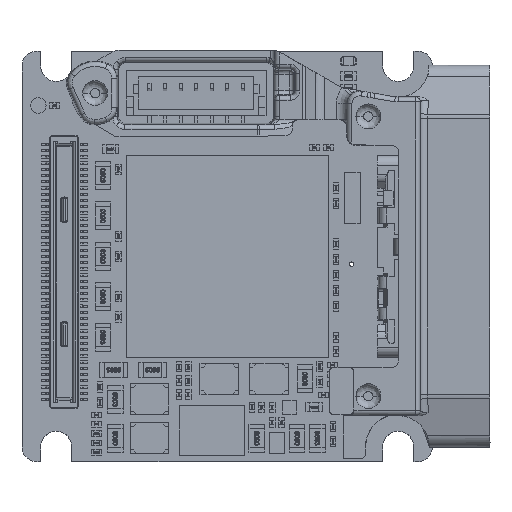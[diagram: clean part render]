
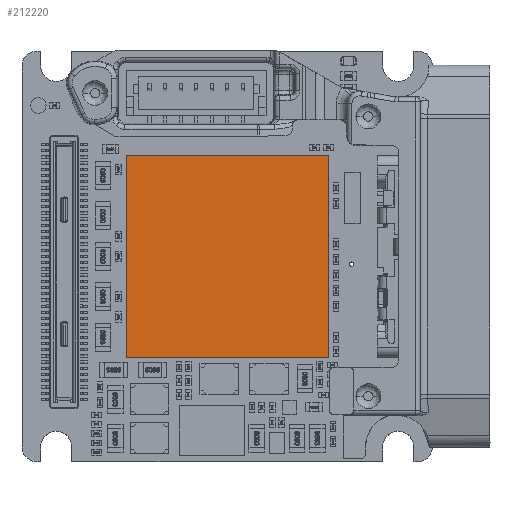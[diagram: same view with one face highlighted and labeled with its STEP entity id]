
A CAD part, top view. The second image highlights one B-rep face of the part: STEP entity #212220.
In plain terms, the highlighted planar face has unit normal (0, 0, 1).
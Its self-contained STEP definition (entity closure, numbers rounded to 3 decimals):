
#13015 = ORIENTED_EDGE ( 'NONE', *, *, #58754, .F. ) ;
#16002 = VECTOR ( 'NONE', #419441, 1000. ) ;
#58754 = EDGE_CURVE ( 'NONE', #246205, #401049, #334024, .T. ) ;
#87493 = DIRECTION ( 'NONE',  ( -1., 0., 0. ) ) ;
#92307 = CARTESIAN_POINT ( 'NONE',  ( 6.5, 6.5, 6.237 ) ) ;
#95477 = ORIENTED_EDGE ( 'NONE', *, *, #119509, .F. ) ;
#97279 = DIRECTION ( 'NONE',  ( 0., 1., 0. ) ) ;
#106063 = EDGE_CURVE ( 'NONE', #401049, #395479, #399798, .T. ) ;
#113562 = VECTOR ( 'NONE', #87493, 1000. ) ;
#119509 = EDGE_CURVE ( 'NONE', #395479, #380187, #326027, .T. ) ;
#122164 = ORIENTED_EDGE ( 'NONE', *, *, #106063, .F. ) ;
#134094 = CARTESIAN_POINT ( 'NONE',  ( -6.5, 6.5, 6.237 ) ) ;
#138601 = CARTESIAN_POINT ( 'NONE',  ( -6.5, -6.5, 6.237 ) ) ;
#146545 = FACE_OUTER_BOUND ( 'NONE', #297682, .T. ) ;
#164960 = PLANE ( 'NONE',  #504613 ) ;
#208512 = DIRECTION ( 'NONE',  ( 1., 0., 0. ) ) ;
#212220 = ADVANCED_FACE ( 'NONE', ( #146545 ), #164960, .T. ) ;
#246205 = VERTEX_POINT ( 'NONE', #138601 ) ;
#254827 = VECTOR ( 'NONE', #97279, 1000. ) ;
#255217 = CARTESIAN_POINT ( 'NONE',  ( -6.5, -6.5, 6.237 ) ) ;
#297682 = EDGE_LOOP ( 'NONE', ( #438343, #95477, #122164, #13015 ) ) ;
#315048 = CARTESIAN_POINT ( 'NONE',  ( 6.5, -6.5, 6.237 ) ) ;
#326027 = LINE ( 'NONE', #92307, #16002 ) ;
#334024 = LINE ( 'NONE', #523732, #254827 ) ;
#364673 = DIRECTION ( 'NONE',  ( 1., 0., 0. ) ) ;
#380187 = VERTEX_POINT ( 'NONE', #453388 ) ;
#395479 = VERTEX_POINT ( 'NONE', #571171 ) ;
#399798 = LINE ( 'NONE', #134094, #614113 ) ;
#401049 = VERTEX_POINT ( 'NONE', #495055 ) ;
#419441 = DIRECTION ( 'NONE',  ( 0., -1., 0. ) ) ;
#438343 = ORIENTED_EDGE ( 'NONE', *, *, #477886, .F. ) ;
#453388 = CARTESIAN_POINT ( 'NONE',  ( 6.5, -6.5, 6.237 ) ) ;
#477886 = EDGE_CURVE ( 'NONE', #380187, #246205, #507924, .T. ) ;
#485606 = DIRECTION ( 'NONE',  ( 0., 0., 1. ) ) ;
#495055 = CARTESIAN_POINT ( 'NONE',  ( -6.5, 6.5, 6.237 ) ) ;
#504613 = AXIS2_PLACEMENT_3D ( 'NONE', #255217, #485606, #208512 ) ;
#507924 = LINE ( 'NONE', #315048, #113562 ) ;
#523732 = CARTESIAN_POINT ( 'NONE',  ( -6.5, -6.5, 6.237 ) ) ;
#571171 = CARTESIAN_POINT ( 'NONE',  ( 6.5, 6.5, 6.237 ) ) ;
#614113 = VECTOR ( 'NONE', #364673, 1000. ) ;
